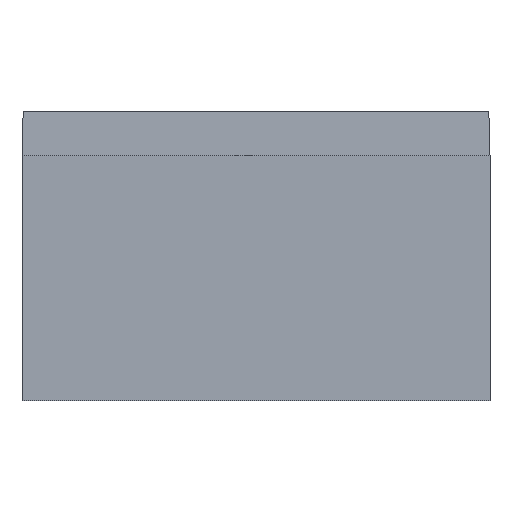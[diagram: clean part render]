
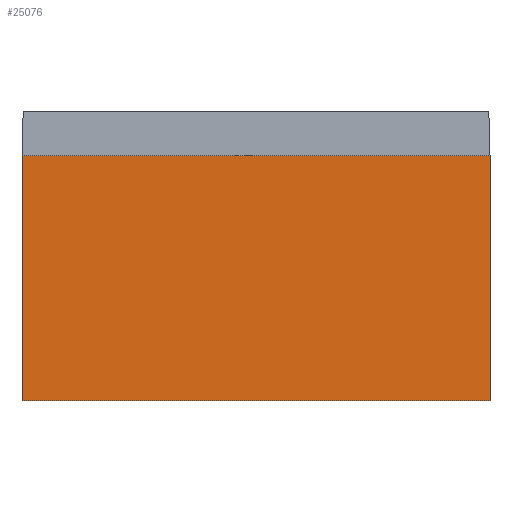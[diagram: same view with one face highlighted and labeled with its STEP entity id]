
A CAD part, front view. The second image highlights one B-rep face of the part: STEP entity #25076.
In plain terms, the highlighted planar face has unit normal (0, -1, 0).
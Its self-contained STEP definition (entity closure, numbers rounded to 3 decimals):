
#25076 = ADVANCED_FACE('',(#25077),#25091,.T.);
#25077 = FACE_BOUND('',#25078,.T.);
#25078 = EDGE_LOOP('',(#25079,#25114,#25142,#25170));
#25079 = ORIENTED_EDGE('',*,*,#25080,.T.);
#25080 = EDGE_CURVE('',#25081,#25083,#25085,.T.);
#25081 = VERTEX_POINT('',#25082);
#25082 = CARTESIAN_POINT('',(0.,0.,0.));
#25083 = VERTEX_POINT('',#25084);
#25084 = CARTESIAN_POINT('',(0.,0.,-220.));
#25085 = SURFACE_CURVE('',#25086,(#25090,#25102),.PCURVE_S1.);
#25086 = LINE('',#25087,#25088);
#25087 = CARTESIAN_POINT('',(0.,0.,0.));
#25088 = VECTOR('',#25089,1.);
#25089 = DIRECTION('',(-0.,-0.,-1.));
#25090 = PCURVE('',#25091,#25096);
#25091 = PLANE('',#25092);
#25092 = AXIS2_PLACEMENT_3D('',#25093,#25094,#25095);
#25093 = CARTESIAN_POINT('',(0.,0.,0.));
#25094 = DIRECTION('',(0.,-1.,0.));
#25095 = DIRECTION('',(1.,0.,0.));
#25096 = DEFINITIONAL_REPRESENTATION('',(#25097),#25101);
#25097 = LINE('',#25098,#25099);
#25098 = CARTESIAN_POINT('',(0.,0.));
#25099 = VECTOR('',#25100,1.);
#25100 = DIRECTION('',(0.,-1.));
#25101 = ( GEOMETRIC_REPRESENTATION_CONTEXT(2) 
PARAMETRIC_REPRESENTATION_CONTEXT() REPRESENTATION_CONTEXT('2D SPACE',''
  ) );
#25102 = PCURVE('',#25103,#25108);
#25103 = PLANE('',#25104);
#25104 = AXIS2_PLACEMENT_3D('',#25105,#25106,#25107);
#25105 = CARTESIAN_POINT('',(0.,560.,0.));
#25106 = DIRECTION('',(-1.,0.,0.));
#25107 = DIRECTION('',(0.,-1.,0.));
#25108 = DEFINITIONAL_REPRESENTATION('',(#25109),#25113);
#25109 = LINE('',#25110,#25111);
#25110 = CARTESIAN_POINT('',(560.,0.));
#25111 = VECTOR('',#25112,1.);
#25112 = DIRECTION('',(0.,-1.));
#25113 = ( GEOMETRIC_REPRESENTATION_CONTEXT(2) 
PARAMETRIC_REPRESENTATION_CONTEXT() REPRESENTATION_CONTEXT('2D SPACE',''
  ) );
#25114 = ORIENTED_EDGE('',*,*,#25115,.T.);
#25115 = EDGE_CURVE('',#25083,#25116,#25118,.T.);
#25116 = VERTEX_POINT('',#25117);
#25117 = CARTESIAN_POINT('',(420.,0.,-220.));
#25118 = SURFACE_CURVE('',#25119,(#25123,#25130),.PCURVE_S1.);
#25119 = LINE('',#25120,#25121);
#25120 = CARTESIAN_POINT('',(0.,0.,-220.));
#25121 = VECTOR('',#25122,1.);
#25122 = DIRECTION('',(1.,0.,0.));
#25123 = PCURVE('',#25091,#25124);
#25124 = DEFINITIONAL_REPRESENTATION('',(#25125),#25129);
#25125 = LINE('',#25126,#25127);
#25126 = CARTESIAN_POINT('',(0.,-220.));
#25127 = VECTOR('',#25128,1.);
#25128 = DIRECTION('',(1.,0.));
#25129 = ( GEOMETRIC_REPRESENTATION_CONTEXT(2) 
PARAMETRIC_REPRESENTATION_CONTEXT() REPRESENTATION_CONTEXT('2D SPACE',''
  ) );
#25130 = PCURVE('',#25131,#25136);
#25131 = PLANE('',#25132);
#25132 = AXIS2_PLACEMENT_3D('',#25133,#25134,#25135);
#25133 = CARTESIAN_POINT('',(210.,280.,-220.));
#25134 = DIRECTION('',(0.,0.,1.));
#25135 = DIRECTION('',(1.,0.,-0.));
#25136 = DEFINITIONAL_REPRESENTATION('',(#25137),#25141);
#25137 = LINE('',#25138,#25139);
#25138 = CARTESIAN_POINT('',(-210.,-280.));
#25139 = VECTOR('',#25140,1.);
#25140 = DIRECTION('',(1.,0.));
#25141 = ( GEOMETRIC_REPRESENTATION_CONTEXT(2) 
PARAMETRIC_REPRESENTATION_CONTEXT() REPRESENTATION_CONTEXT('2D SPACE',''
  ) );
#25142 = ORIENTED_EDGE('',*,*,#25143,.F.);
#25143 = EDGE_CURVE('',#25144,#25116,#25146,.T.);
#25144 = VERTEX_POINT('',#25145);
#25145 = CARTESIAN_POINT('',(420.,0.,0.));
#25146 = SURFACE_CURVE('',#25147,(#25151,#25158),.PCURVE_S1.);
#25147 = LINE('',#25148,#25149);
#25148 = CARTESIAN_POINT('',(420.,0.,0.));
#25149 = VECTOR('',#25150,1.);
#25150 = DIRECTION('',(-0.,-0.,-1.));
#25151 = PCURVE('',#25091,#25152);
#25152 = DEFINITIONAL_REPRESENTATION('',(#25153),#25157);
#25153 = LINE('',#25154,#25155);
#25154 = CARTESIAN_POINT('',(420.,0.));
#25155 = VECTOR('',#25156,1.);
#25156 = DIRECTION('',(0.,-1.));
#25157 = ( GEOMETRIC_REPRESENTATION_CONTEXT(2) 
PARAMETRIC_REPRESENTATION_CONTEXT() REPRESENTATION_CONTEXT('2D SPACE',''
  ) );
#25158 = PCURVE('',#25159,#25164);
#25159 = PLANE('',#25160);
#25160 = AXIS2_PLACEMENT_3D('',#25161,#25162,#25163);
#25161 = CARTESIAN_POINT('',(420.,0.,0.));
#25162 = DIRECTION('',(1.,0.,0.));
#25163 = DIRECTION('',(-0.,1.,0.));
#25164 = DEFINITIONAL_REPRESENTATION('',(#25165),#25169);
#25165 = LINE('',#25166,#25167);
#25166 = CARTESIAN_POINT('',(0.,0.));
#25167 = VECTOR('',#25168,1.);
#25168 = DIRECTION('',(0.,-1.));
#25169 = ( GEOMETRIC_REPRESENTATION_CONTEXT(2) 
PARAMETRIC_REPRESENTATION_CONTEXT() REPRESENTATION_CONTEXT('2D SPACE',''
  ) );
#25170 = ORIENTED_EDGE('',*,*,#25171,.F.);
#25171 = EDGE_CURVE('',#25081,#25144,#25172,.T.);
#25172 = SURFACE_CURVE('',#25173,(#25177,#25184),.PCURVE_S1.);
#25173 = LINE('',#25174,#25175);
#25174 = CARTESIAN_POINT('',(0.,0.,0.));
#25175 = VECTOR('',#25176,1.);
#25176 = DIRECTION('',(1.,0.,0.));
#25177 = PCURVE('',#25091,#25178);
#25178 = DEFINITIONAL_REPRESENTATION('',(#25179),#25183);
#25179 = LINE('',#25180,#25181);
#25180 = CARTESIAN_POINT('',(0.,0.));
#25181 = VECTOR('',#25182,1.);
#25182 = DIRECTION('',(1.,0.));
#25183 = ( GEOMETRIC_REPRESENTATION_CONTEXT(2) 
PARAMETRIC_REPRESENTATION_CONTEXT() REPRESENTATION_CONTEXT('2D SPACE',''
  ) );
#25184 = PCURVE('',#25185,#25190);
#25185 = PLANE('',#25186);
#25186 = AXIS2_PLACEMENT_3D('',#25187,#25188,#25189);
#25187 = CARTESIAN_POINT('',(210.,280.,0.));
#25188 = DIRECTION('',(0.,0.,1.));
#25189 = DIRECTION('',(1.,0.,-0.));
#25190 = DEFINITIONAL_REPRESENTATION('',(#25191),#25195);
#25191 = LINE('',#25192,#25193);
#25192 = CARTESIAN_POINT('',(-210.,-280.));
#25193 = VECTOR('',#25194,1.);
#25194 = DIRECTION('',(1.,0.));
#25195 = ( GEOMETRIC_REPRESENTATION_CONTEXT(2) 
PARAMETRIC_REPRESENTATION_CONTEXT() REPRESENTATION_CONTEXT('2D SPACE',''
  ) );
